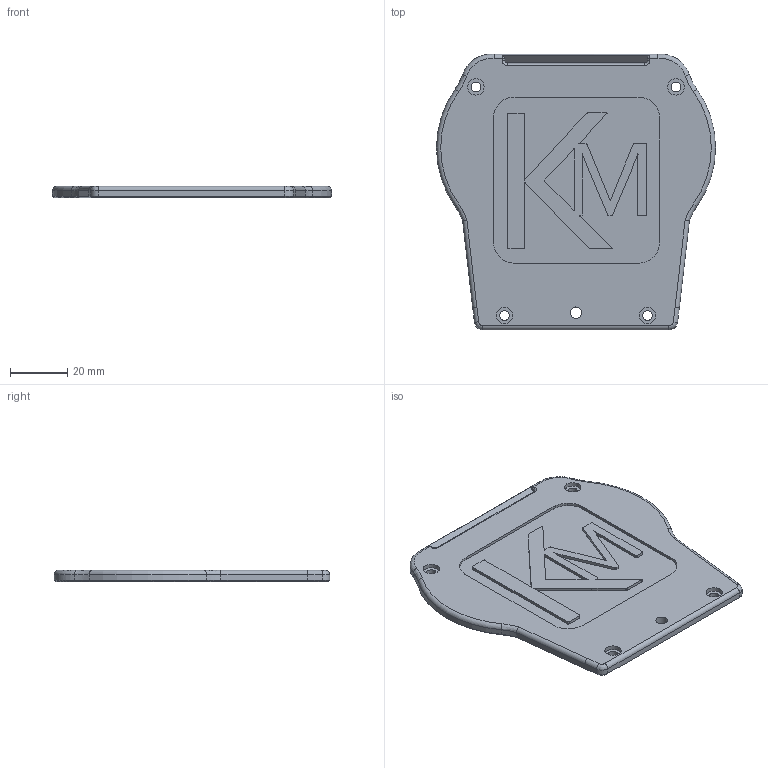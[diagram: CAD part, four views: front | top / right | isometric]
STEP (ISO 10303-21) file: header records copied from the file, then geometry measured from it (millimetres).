
FILE_DESCRIPTION(/* description */ (''),/* implementation_level */ '2;1');
FILE_NAME(/* name */ 'OSSM - Body - Cover.step',/* time_stamp */ '2023-02-08T08:38:42-08:00',/* author */ (''),/* organization */ (''),/* preprocessor_version */ 'ST-DEVELOPER v19.2',/* originating_system */ 'Autodesk Translation Framework v11.17.0.187',/* authorisation */ '');
FILE_SCHEMA (('AUTOMOTIVE_DESIGN { 1 0 10303 214 3 1 1 }'));
Length unit declared in the file: millimetre
Products named in the file (1): Standard Cover
Bounding box: 97.67 x 96.49 x 4 mm (x, y, z)
Volume: 29075.7 mm3; surface area: 18127.4 mm2
Topology: 1 solids, 1 shells, 197 faces, 528 edges, 340 vertices
Faces by surface type: bspline 124, plane 41, cylinder 24, torus 4, cone 4
Full cylindrical faces by diameter (mm): 3.3 x4, 4 x1, 5.7 x4
Entity records: 7474 total; most frequent: CARTESIAN_POINT 3670, ORIENTED_EDGE 1056, EDGE_CURVE 528, DIRECTION 481, VERTEX_POINT 340, EDGE_LOOP 214, LINE 209, VECTOR 209
